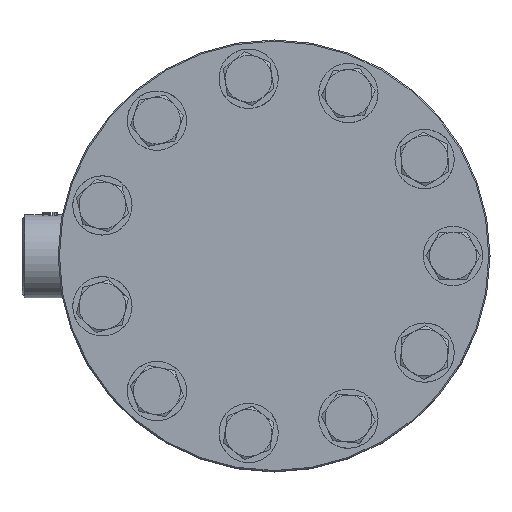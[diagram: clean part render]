
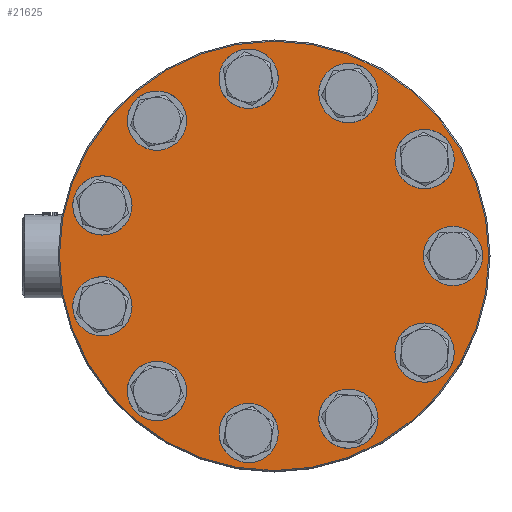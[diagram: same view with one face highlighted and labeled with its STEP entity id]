
A CAD part, top view. The second image highlights one B-rep face of the part: STEP entity #21625.
In plain terms, the highlighted planar face has unit normal (0, 0, 1).
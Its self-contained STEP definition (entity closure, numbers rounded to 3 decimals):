
#337=FACE_BOUND('',#3844,.T.);
#338=FACE_BOUND('',#3845,.T.);
#339=FACE_BOUND('',#3846,.T.);
#340=FACE_BOUND('',#3847,.T.);
#341=FACE_BOUND('',#3848,.T.);
#342=FACE_BOUND('',#3849,.T.);
#343=FACE_BOUND('',#3850,.T.);
#344=FACE_BOUND('',#3851,.T.);
#345=FACE_BOUND('',#3852,.T.);
#346=FACE_BOUND('',#3853,.T.);
#347=FACE_BOUND('',#3854,.T.);
#832=PLANE('',#22791);
#2488=FACE_OUTER_BOUND('',#3843,.T.);
#3843=EDGE_LOOP('',(#19701));
#3844=EDGE_LOOP('',(#19702));
#3845=EDGE_LOOP('',(#19703));
#3846=EDGE_LOOP('',(#19704));
#3847=EDGE_LOOP('',(#19705));
#3848=EDGE_LOOP('',(#19706));
#3849=EDGE_LOOP('',(#19707));
#3850=EDGE_LOOP('',(#19708));
#3851=EDGE_LOOP('',(#19709));
#3852=EDGE_LOOP('',(#19710));
#3853=EDGE_LOOP('',(#19711));
#3854=EDGE_LOOP('',(#19712));
#4519=CIRCLE('',#22790,12.);
#4520=CIRCLE('',#22792,87.);
#4521=CIRCLE('',#22793,12.);
#4522=CIRCLE('',#22794,12.);
#4523=CIRCLE('',#22795,12.);
#4524=CIRCLE('',#22796,12.);
#4525=CIRCLE('',#22797,12.);
#4526=CIRCLE('',#22798,12.);
#4527=CIRCLE('',#22799,12.);
#4528=CIRCLE('',#22800,12.);
#4529=CIRCLE('',#22801,12.);
#4530=CIRCLE('',#22802,12.);
#10586=VERTEX_POINT('',#46820);
#10587=VERTEX_POINT('',#46823);
#10588=VERTEX_POINT('',#46825);
#10589=VERTEX_POINT('',#46827);
#10590=VERTEX_POINT('',#46829);
#10591=VERTEX_POINT('',#46831);
#10592=VERTEX_POINT('',#46833);
#10593=VERTEX_POINT('',#46835);
#10594=VERTEX_POINT('',#46837);
#10595=VERTEX_POINT('',#46839);
#10596=VERTEX_POINT('',#46841);
#10597=VERTEX_POINT('',#46843);
#13662=EDGE_CURVE('',#10586,#10586,#4519,.T.);
#13663=EDGE_CURVE('',#10587,#10587,#4520,.T.);
#13664=EDGE_CURVE('',#10588,#10588,#4521,.T.);
#13665=EDGE_CURVE('',#10589,#10589,#4522,.T.);
#13666=EDGE_CURVE('',#10590,#10590,#4523,.T.);
#13667=EDGE_CURVE('',#10591,#10591,#4524,.T.);
#13668=EDGE_CURVE('',#10592,#10592,#4525,.T.);
#13669=EDGE_CURVE('',#10593,#10593,#4526,.T.);
#13670=EDGE_CURVE('',#10594,#10594,#4527,.T.);
#13671=EDGE_CURVE('',#10595,#10595,#4528,.T.);
#13672=EDGE_CURVE('',#10596,#10596,#4529,.T.);
#13673=EDGE_CURVE('',#10597,#10597,#4530,.T.);
#19701=ORIENTED_EDGE('',*,*,#13663,.F.);
#19702=ORIENTED_EDGE('',*,*,#13664,.T.);
#19703=ORIENTED_EDGE('',*,*,#13665,.T.);
#19704=ORIENTED_EDGE('',*,*,#13666,.T.);
#19705=ORIENTED_EDGE('',*,*,#13667,.T.);
#19706=ORIENTED_EDGE('',*,*,#13668,.T.);
#19707=ORIENTED_EDGE('',*,*,#13669,.T.);
#19708=ORIENTED_EDGE('',*,*,#13670,.T.);
#19709=ORIENTED_EDGE('',*,*,#13671,.T.);
#19710=ORIENTED_EDGE('',*,*,#13672,.T.);
#19711=ORIENTED_EDGE('',*,*,#13673,.T.);
#19712=ORIENTED_EDGE('',*,*,#13662,.T.);
#21625=ADVANCED_FACE('',(#2488,#337,#338,#339,#340,#341,#342,#343,#344,
#345,#346,#347),#832,.F.);
#22790=AXIS2_PLACEMENT_3D('',#46821,#26430,#26431);
#22791=AXIS2_PLACEMENT_3D('',#46822,#26432,#26433);
#22792=AXIS2_PLACEMENT_3D('',#46824,#26434,#26435);
#22793=AXIS2_PLACEMENT_3D('',#46826,#26436,#26437);
#22794=AXIS2_PLACEMENT_3D('',#46828,#26438,#26439);
#22795=AXIS2_PLACEMENT_3D('',#46830,#26440,#26441);
#22796=AXIS2_PLACEMENT_3D('',#46832,#26442,#26443);
#22797=AXIS2_PLACEMENT_3D('',#46834,#26444,#26445);
#22798=AXIS2_PLACEMENT_3D('',#46836,#26446,#26447);
#22799=AXIS2_PLACEMENT_3D('',#46838,#26448,#26449);
#22800=AXIS2_PLACEMENT_3D('',#46840,#26450,#26451);
#22801=AXIS2_PLACEMENT_3D('',#46842,#26452,#26453);
#22802=AXIS2_PLACEMENT_3D('',#46844,#26454,#26455);
#26430=DIRECTION('center_axis',(0.,0.,
-1.));
#26431=DIRECTION('ref_axis',(0.541,0.841,0.));
#26432=DIRECTION('center_axis',(0.,0.,
-1.));
#26433=DIRECTION('ref_axis',(0.,-1.,0.));
#26434=DIRECTION('center_axis',(0.,0.,
-1.));
#26435=DIRECTION('ref_axis',(0.,-1.,0.));
#26436=DIRECTION('center_axis',(0.,0.,
-1.));
#26437=DIRECTION('ref_axis',(0.91,0.415,0.));
#26438=DIRECTION('center_axis',(0.,0.,
-1.));
#26439=DIRECTION('ref_axis',(0.756,-0.655,0.));
#26440=DIRECTION('center_axis',(0.,0.,
-1.));
#26441=DIRECTION('ref_axis',(-0.282,-0.959,0.));
#26442=DIRECTION('center_axis',(0.,0.,
-1.));
#26443=DIRECTION('ref_axis',(-0.99,-0.142,0.));
#26444=DIRECTION('center_axis',(0.,0.,
-1.));
#26445=DIRECTION('ref_axis',(-0.541,0.841,0.));
#26446=DIRECTION('center_axis',(0.,0.,
-1.));
#26447=DIRECTION('ref_axis',(0.,1.,0.));
#26448=DIRECTION('center_axis',(0.,0.,
-1.));
#26449=DIRECTION('ref_axis',(-0.91,0.415,0.));
#26450=DIRECTION('center_axis',(0.,0.,
-1.));
#26451=DIRECTION('ref_axis',(-0.756,-0.655,0.));
#26452=DIRECTION('center_axis',(0.,0.,
-1.));
#26453=DIRECTION('ref_axis',(0.282,-0.959,0.));
#26454=DIRECTION('center_axis',(0.,0.,
-1.));
#26455=DIRECTION('ref_axis',(0.99,-0.142,0.));
#46820=CARTESIAN_POINT('',(54.503,-49.292,211.));
#46821=CARTESIAN_POINT('Origin',(60.991,-39.196,211.));
#46822=CARTESIAN_POINT('Origin',(0.,0.,
211.));
#46823=CARTESIAN_POINT('',(-87.,0.,211.));
#46824=CARTESIAN_POINT('Origin',(0.,0.,
211.));
#46825=CARTESIAN_POINT('',(19.202,-70.933,211.));
#46826=CARTESIAN_POINT('Origin',(30.118,-65.948,211.));
#46827=CARTESIAN_POINT('',(-56.546,-46.934,211.));
#46828=CARTESIAN_POINT('Origin',(-47.477,-54.792,211.));
#46829=CARTESIAN_POINT('',(-66.182,31.94,211.));
#46830=CARTESIAN_POINT('Origin',(-69.563,20.426,211.));
#46831=CARTESIAN_POINT('',(1.56,73.47,211.));
#46832=CARTESIAN_POINT('Origin',(-10.318,71.762,211.));
#46833=CARTESIAN_POINT('',(67.479,29.101,211.));
#46834=CARTESIAN_POINT('Origin',(60.991,39.196,211.));
#46835=CARTESIAN_POINT('',(72.5,-12.,211.));
#46836=CARTESIAN_POINT('Origin',(72.5,0.,
211.));
#46837=CARTESIAN_POINT('',(41.033,60.963,211.));
#46838=CARTESIAN_POINT('Origin',(30.118,65.948,211.));
#46839=CARTESIAN_POINT('',(-38.408,62.65,211.));
#46840=CARTESIAN_POINT('Origin',(-47.477,54.792,211.));
#46841=CARTESIAN_POINT('',(-72.944,-8.912,211.));
#46842=CARTESIAN_POINT('Origin',(-69.563,-20.426,211.));
#46843=CARTESIAN_POINT('',(-22.196,-70.054,211.));
#46844=CARTESIAN_POINT('Origin',(-10.318,-71.762,211.));
